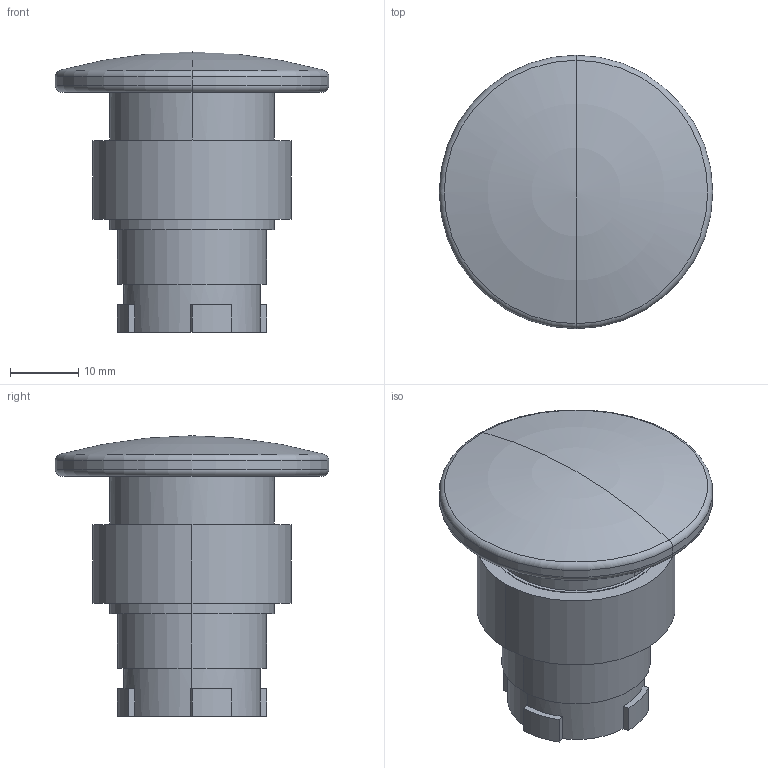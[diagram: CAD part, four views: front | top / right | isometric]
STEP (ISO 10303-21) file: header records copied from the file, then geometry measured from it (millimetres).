
FILE_DESCRIPTION (( 'STEP AP214' ), '1' );
FILE_NAME ('3D 斁麧錪 MTB2-BW4.STEP', '2017-05-19T08:58:38', ( 'adm' ), ( 'MICROSOFT' ), 'SwSTEP 2.0', 'SolidWorks 2011', '' );
FILE_SCHEMA (( 'AUTOMOTIVE_DESIGN' ));
Length unit declared in the file: millimetre
Products named in the file (1): 3D 斁麧錪 MTB2-BW4
Bounding box: 40 x 40 x 41 mm (x, y, z)
Volume: 13726.6 mm3; surface area: 12232.3 mm2
Topology: 1 solids, 1 shells, 102 faces, 276 edges, 177 vertices
Faces by surface type: plane 51, cylinder 38, torus 8, cone 5
Entity records: 4106 total; most frequent: CARTESIAN_POINT 616, DIRECTION 595, ORIENTED_EDGE 544, EDGE_CURVE 272, AXIS2_PLACEMENT_3D 236, VERTEX_POINT 177, CIRCLE 133, LINE 123
